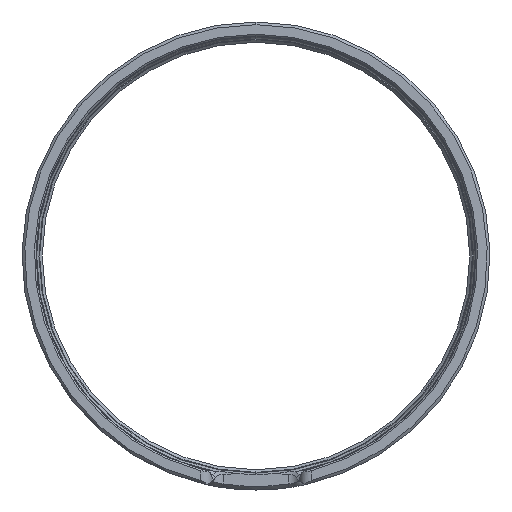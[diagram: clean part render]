
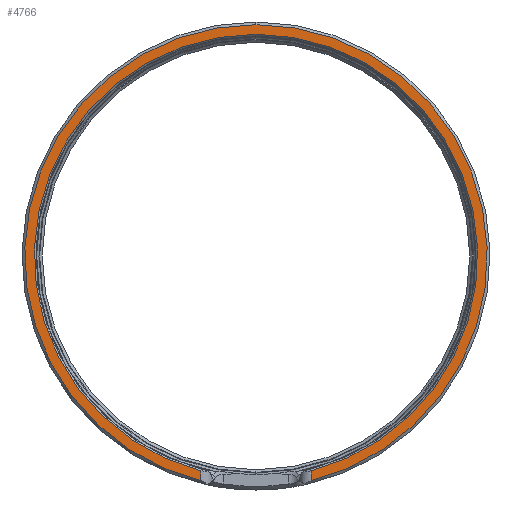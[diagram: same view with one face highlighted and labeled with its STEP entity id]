
A CAD part, left-side view. The second image highlights one B-rep face of the part: STEP entity #4766.
In plain terms, the highlighted planar face has unit normal (-1, 0, 0).
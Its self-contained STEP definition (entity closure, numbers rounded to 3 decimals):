
#231 = EDGE_LOOP ( 'NONE', ( #5062, #4929, #1970, #4597, #5687 ) ) ;
#279 = CARTESIAN_POINT ( 'NONE',  ( -240., 0., 0. ) ) ;
#407 = VERTEX_POINT ( 'NONE', #1830 ) ;
#444 = AXIS2_PLACEMENT_3D ( 'NONE', #2421, #3664, #1994 ) ;
#475 = CARTESIAN_POINT ( 'NONE',  ( -240., -10.2, -41.515 ) ) ;
#778 = DIRECTION ( 'NONE',  ( 0., 0., 1. ) ) ;
#1191 = AXIS2_PLACEMENT_3D ( 'NONE', #279, #3932, #3064 ) ;
#1328 = CARTESIAN_POINT ( 'NONE',  ( -240., -10.2, -39.685 ) ) ;
#1332 = DIRECTION ( 'NONE',  ( 0., 0., 1. ) ) ;
#1614 = LINE ( 'NONE', #1729, #5280 ) ;
#1729 = CARTESIAN_POINT ( 'NONE',  ( -240., -10.2, -43.25 ) ) ;
#1830 = CARTESIAN_POINT ( 'NONE',  ( -240., 10.2, -41.515 ) ) ;
#1845 = CIRCLE ( 'NONE', #3321, 40.975 ) ;
#1876 = CIRCLE ( 'NONE', #1191, 42.75 ) ;
#1970 = ORIENTED_EDGE ( 'NONE', *, *, #2070, .T. ) ;
#1994 = DIRECTION ( 'NONE',  ( 0., 0., 1. ) ) ;
#2070 = EDGE_CURVE ( 'NONE', #2835, #407, #1876, .T. ) ;
#2421 = CARTESIAN_POINT ( 'NONE',  ( -240., 0., 0. ) ) ;
#2578 = DIRECTION ( 'NONE',  ( -1., 0., 0. ) ) ;
#2626 = EDGE_CURVE ( 'NONE', #407, #5561, #3594, .T. ) ;
#2835 = VERTEX_POINT ( 'NONE', #3627 ) ;
#3013 = DIRECTION ( 'NONE',  ( 0., 0., 1. ) ) ;
#3064 = DIRECTION ( 'NONE',  ( 0., 0., 1. ) ) ;
#3148 = VERTEX_POINT ( 'NONE', #475 ) ;
#3321 = AXIS2_PLACEMENT_3D ( 'NONE', #5618, #4681, #3013 ) ;
#3594 = LINE ( 'NONE', #3918, #5754 ) ;
#3620 = EDGE_CURVE ( 'NONE', #3718, #5561, #1845, .T. ) ;
#3627 = CARTESIAN_POINT ( 'NONE',  ( -240., 0., 42.75 ) ) ;
#3664 = DIRECTION ( 'NONE',  ( -1., 0., 0. ) ) ;
#3718 = VERTEX_POINT ( 'NONE', #1328 ) ;
#3804 = CARTESIAN_POINT ( 'NONE',  ( -240., 10.2, -39.685 ) ) ;
#3918 = CARTESIAN_POINT ( 'NONE',  ( -240., 10.2, -43.25 ) ) ;
#3932 = DIRECTION ( 'NONE',  ( -1., 0., 0. ) ) ;
#3968 = AXIS2_PLACEMENT_3D ( 'NONE', #5301, #2578, #4923 ) ;
#4534 = CIRCLE ( 'NONE', #444, 42.75 ) ;
#4597 = ORIENTED_EDGE ( 'NONE', *, *, #2626, .T. ) ;
#4681 = DIRECTION ( 'NONE',  ( -1., 0., 0. ) ) ;
#4766 = ADVANCED_FACE ( 'NONE', ( #5238 ), #5331, .T. ) ;
#4910 = EDGE_CURVE ( 'NONE', #3148, #2835, #4534, .T. ) ;
#4923 = DIRECTION ( 'NONE',  ( 0., 0., -1. ) ) ;
#4929 = ORIENTED_EDGE ( 'NONE', *, *, #4910, .T. ) ;
#5005 = EDGE_CURVE ( 'NONE', #3148, #3718, #1614, .T. ) ;
#5062 = ORIENTED_EDGE ( 'NONE', *, *, #5005, .F. ) ;
#5238 = FACE_OUTER_BOUND ( 'NONE', #231, .T. ) ;
#5280 = VECTOR ( 'NONE', #778, 1000. ) ;
#5301 = CARTESIAN_POINT ( 'NONE',  ( -240., 0., 0. ) ) ;
#5331 = PLANE ( 'NONE',  #3968 ) ;
#5561 = VERTEX_POINT ( 'NONE', #3804 ) ;
#5618 = CARTESIAN_POINT ( 'NONE',  ( -240., 0., 0. ) ) ;
#5687 = ORIENTED_EDGE ( 'NONE', *, *, #3620, .F. ) ;
#5754 = VECTOR ( 'NONE', #1332, 1000. ) ;
